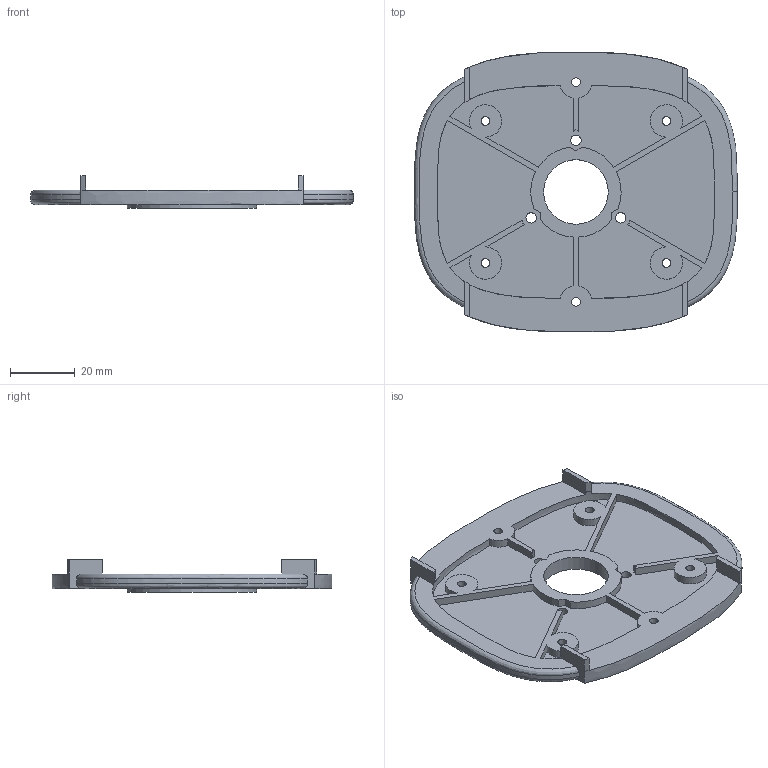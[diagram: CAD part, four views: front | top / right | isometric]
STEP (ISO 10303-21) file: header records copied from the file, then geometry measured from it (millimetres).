
FILE_DESCRIPTION(('Open CASCADE Model'),'2;1');
FILE_NAME('Open CASCADE Shape Model','2026-11-01T16:31:48',('Author'),( 'Open CASCADE'),'Open CASCADE STEP processor 8.0','build123d', 'Unknown');
FILE_SCHEMA(('AUTOMOTIVE_DESIGN { 1 0 10303 214 1 1 1 1 }'));
Products named in the file (1): COMPOUND
Bounding box: 99.96 x 86.59 x 10.2 mm (x, y, z)
Volume: 23485 mm3; surface area: 18631.7 mm2
Topology: 1 solids, 1 shells, 108 faces, 302 edges, 198 vertices
Faces by surface type: plane 52, cylinder 26, extrusion 18, cone 6, bspline 6
Full cylindrical faces by diameter (mm): 2.7 x6, 3.2 x3, 20 x1, 24 x1, 40 x1
Entity records: 50936 total; most frequent: CARTESIAN_POINT 45694, DIRECTION 693, ORIENTED_EDGE 604, PCURVE 604, DEFINITIONAL_REPRESENTATION 604, B_SPLINE_CURVE_WITH_KNOTS 454, VECTOR 358, LINE 340
